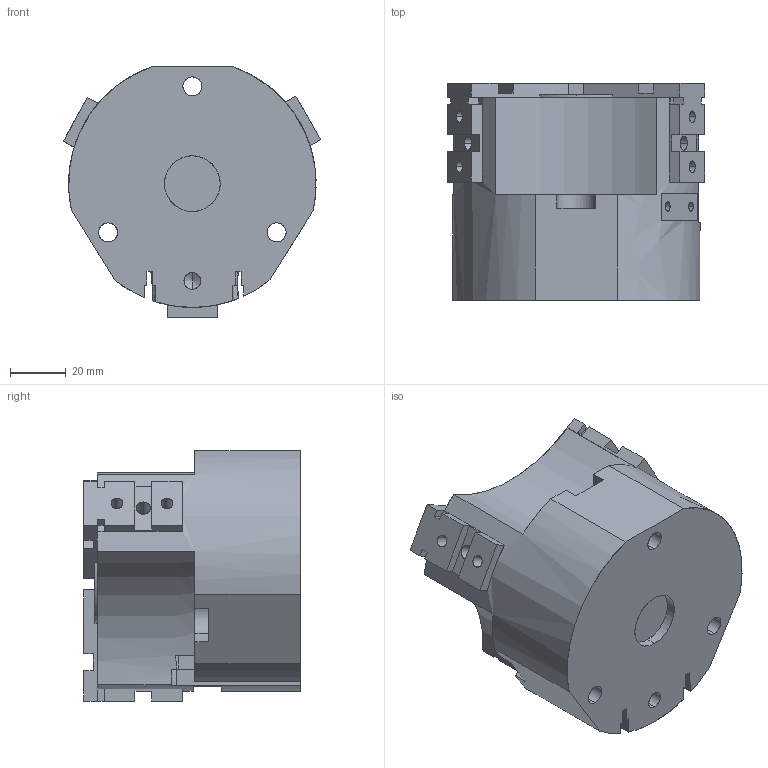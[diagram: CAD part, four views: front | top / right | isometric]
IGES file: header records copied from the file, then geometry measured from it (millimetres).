
Start section: SolidWorks IGES file using analytic representation for surfaces
Global section: file name: C:\Documents and Settings\SGA\Bureau\ROMAIN\OPE 90-3\OPE 90-3 fermé.IGS; native system: SolidWorks 2010; preprocessor: SolidWorks 2010; author: SGA; date: 110928.095043; units: millimetre
Bounding box: 92.53 x 78 x 90 mm (x, y, z)
Surface area: 66681.8 mm2 (no closed solid volume)
Topology: 0 solids, 0 shells, 611 faces, 6951 edges, 6907 vertices
Faces by surface type: bspline 479, revolution 132
